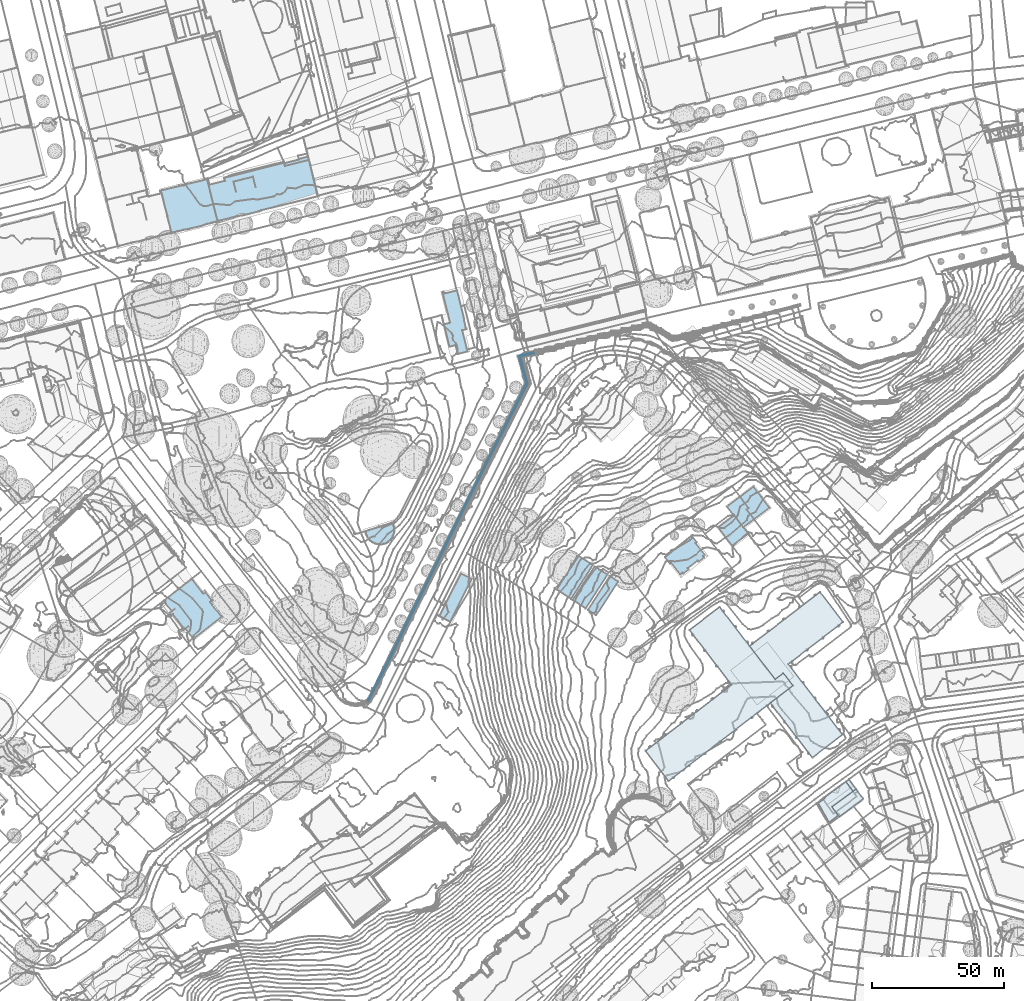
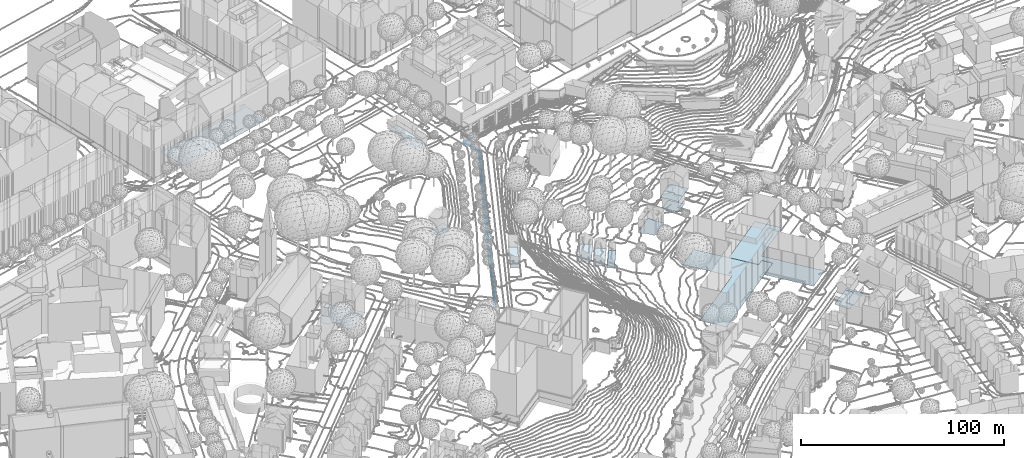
# Not in any storey, part 10 of 494: 16 footings.
"""IFC2X3 model written with IfcOpenShell, lengths in metres."""

import ifcopenshell
import ifcopenshell.guid

model = None  # the IFC model being written
_history = None  # IfcOwnerHistory: only IFC2X3 demands one
_inside = {}  # id of a spatial element -> (the spatial element, [elements in it])
_under = {}  # id of a project, library or spatial element -> (it, [spatial elements below it])
_declared = {}  # id of a project -> (the project, [libraries it declares])
_typed = {}  # id of a type object -> (the type object, [elements of that type])
_made_of = {}  # id of a material, layer set ... -> (it, [elements and type objects made of it])


def new_model(schema):
    """Start an empty IFC model of exactly this schema.

    Asked for "IFC4X3", IfcOpenShell would pick the latest addendum, in which some entities
    have other attributes; the version numbers below select the first issue.
    IFC2X3 requires an IfcOwnerHistory on every rooted entity: one is made here for all.
    """
    global model, _history
    if schema == "IFC4X3":
        model = ifcopenshell.file(schema_version=(4, 3, 0, 0))
    else:
        model = ifcopenshell.file(schema=schema)
    _inside.clear()
    _under.clear()
    _declared.clear()
    _typed.clear()
    _made_of.clear()
    _history = None
    if model.schema == "IFC2X3":
        org = make("IfcOrganization", Name="unknown")
        user = make(
            "IfcPersonAndOrganization",
            ThePerson=make("IfcPerson", FamilyName="unknown"),
            TheOrganization=org,
        )
        app = make(
            "IfcApplication",
            ApplicationDeveloper=org,
            Version="unknown",
            ApplicationFullName="unknown",
            ApplicationIdentifier="unknown",
        )
        _history = make(
            "IfcOwnerHistory",
            OwningUser=user,
            OwningApplication=app,
            ChangeAction="ADDED",
            CreationDate=0,
        )
    return model


def make(cls, **values):
    """One entity of the class cls with the attributes given. An attribute that is None is left unset."""
    return model.create_entity(
        cls, **{name: value for name, value in values.items() if value is not None}
    )


def rooted(cls, **values):
    """An entity with a GlobalId (a new one), such as an element, a storey or a relation."""
    return make(cls, GlobalId=ifcopenshell.guid.new(), OwnerHistory=_history, **values)


def si_unit(unit_type, name, prefix=None):
    """IfcSIUnit, for example si_unit("LENGTHUNIT", "METRE", prefix="MILLI")."""
    return make("IfcSIUnit", UnitType=unit_type, Prefix=prefix, Name=name)


def assignment(units):
    """IfcUnitAssignment: the units of a project."""
    return None if units is None else make("IfcUnitAssignment", Units=units)


def point(xyz):
    """IfcCartesianPoint."""
    return None if xyz is None else make("IfcCartesianPoint", Coordinates=xyz)


def direction(xyz):
    """IfcDirection."""
    return None if xyz is None else make("IfcDirection", DirectionRatios=xyz)


def frame(location, z_axis=None, x_axis=None):
    """IfcAxis2Placement3D, a coordinate frame: its origin and axes. An axis left out is left unset."""
    return make(
        "IfcAxis2Placement3D",
        Location=point(location),
        Axis=direction(z_axis),
        RefDirection=direction(x_axis),
    )


def origin_with_axes():
    """The frame at (0, 0, 0) with the z axis (0, 0, 1) and the x axis (1, 0, 0) written out."""
    return frame((0.0, 0.0, 0.0), z_axis=(0.0, 0.0, 1.0), x_axis=(1.0, 0.0, 0.0))


def place(relative_to, where):
    """IfcLocalPlacement: puts the frame where relative to a parent placement (None: the world)."""
    return make(
        "IfcLocalPlacement", PlacementRelTo=relative_to, RelativePlacement=where
    )


def context(
    kind, dimensions, precision=None, world=None, true_north=None, identifier=None
):
    """IfcGeometricRepresentationContext, for example the 3D "Model" context."""
    return make(
        "IfcGeometricRepresentationContext",
        ContextIdentifier=identifier,
        ContextType=kind,
        CoordinateSpaceDimension=dimensions,
        Precision=precision,
        WorldCoordinateSystem=world,
        TrueNorth=true_north,
    )


def subcontext(parent, identifier, kind, view, scale=None):
    """IfcGeometricRepresentationSubContext, for example "Body" below "Model"."""
    return make(
        "IfcGeometricRepresentationSubContext",
        ContextIdentifier=identifier,
        ContextType=kind,
        ParentContext=parent,
        TargetScale=scale,
        TargetView=view,
    )


def project(units=None, contexts=None):
    """IfcProject with its units and contexts."""
    return rooted(
        "IfcProject",
        Name="project",
        RepresentationContexts=contexts,
        UnitsInContext=assignment(units),
    )


def faces_of(points, faces, orient=None, outer=None):
    """IfcFace entities. A face is a list of loops; a loop is a list of indices into points, from 0.

    orient and outer hold one flag for each loop. By default every Orientation is true, the
    first loop of a face is its IfcFaceOuterBound and the others are IfcFaceBound.
    """
    made = []
    for i, loops in enumerate(faces):
        bounds = []
        for j, loop in enumerate(loops):
            is_outer = j == 0 if outer is None else outer[i][j]
            bounds.append(
                make(
                    "IfcFaceOuterBound" if is_outer else "IfcFaceBound",
                    Bound=make("IfcPolyLoop", Polygon=[points[k] for k in loop]),
                    Orientation=True if orient is None else orient[i][j],
                )
            )
        made.append(make("IfcFace", Bounds=bounds))
    return made


def faceted_brep(points, faces, orient=None, outer=None, voids=None):
    """IfcFacetedBrep: a solid bounded by flat faces; with voids (closed shells), ...WithVoids."""
    shared = [point(p) for p in points]
    hull = make("IfcClosedShell", CfsFaces=faces_of(shared, faces, orient, outer))
    if voids is None:
        return make("IfcFacetedBrep", Outer=hull)
    return make(
        "IfcFacetedBrepWithVoids",
        Outer=hull,
        Voids=[
            make(cls, CfsFaces=faces_of(shared, fs, o, b)) for cls, fs, o, b in voids
        ],
    )


def shape(context_of_items, identifier, shape_type, items):
    """IfcShapeRepresentation: the items that make up one representation, for example the "Body"."""
    return make(
        "IfcShapeRepresentation",
        ContextOfItems=context_of_items,
        RepresentationIdentifier=identifier,
        RepresentationType=shape_type,
        Items=items,
    )


def made_of(thing, what):
    """Note that an element or type object is made of a material, layer set ...; save() writes the relation."""
    if what is not None:
        _made_of.setdefault(what.id(), (what, []))[1].append(thing)
    return thing


def element(
    cls,
    number,
    at=None,
    inside=None,
    cuts=None,
    type_object=None,
    material=None,
    context=None,
    identifier="Body",
    shape_type=None,
    held_by="IfcProductDefinitionShape",
    body=None,
    shapes=None,
    **own,
):
    """One element of the class cls, such as IfcWall. Its Tag is "e" and its number.

    at: its placement. inside: the storey or other place that contains it. cuts: it is an
    opening in that element (IfcRelVoidsElement). A single representation is given by context,
    identifier, shape_type and body (its items); several are given by shapes. held_by: the class
    of the entity that holds the representations. save() writes the other relations.
    """
    e = rooted(cls, Tag="e%d" % number, ObjectPlacement=at, **own)
    if body is not None:
        shapes = [shape(context, identifier, shape_type, body)]
    if shapes is not None:
        e.Representation = make(held_by, Representations=shapes)
    if inside is not None:
        _inside.setdefault(inside.id(), (inside, []))[1].append(e)
    if cuts is not None:
        rooted(
            "IfcRelVoidsElement", RelatingBuildingElement=cuts, RelatedOpeningElement=e
        )
    if type_object is not None:
        _typed.setdefault(type_object.id(), (type_object, []))[1].append(e)
    return made_of(e, material)


def aggregate(whole, parts):
    """IfcRelAggregates: a whole, such as a stair, and the parts it consists of."""
    return rooted("IfcRelAggregates", RelatingObject=whole, RelatedObjects=parts)


def save(model, path):
    """Write the relations noted so far, then the file.

    IfcRelAggregates (storeys below a building ...), IfcRelContainedInSpatialStructure (elements
    in a storey), IfcRelDefinesByType, IfcRelAssociatesMaterial and IfcRelDeclares: one each for
    every whole, place, type object, material and project.
    """
    for whole, parts in _under.values():
        aggregate(whole, parts)
    for where, things in _inside.values():
        rooted(
            "IfcRelContainedInSpatialStructure",
            RelatedElements=things,
            RelatingStructure=where,
        )
    for kind, things in _typed.values():
        rooted("IfcRelDefinesByType", RelatedObjects=things, RelatingType=kind)
    for what, things in _made_of.values():
        rooted("IfcRelAssociatesMaterial", RelatedObjects=things, RelatingMaterial=what)
    for by, libraries in _declared.values():
        rooted("IfcRelDeclares", RelatingContext=by, RelatedDefinitions=libraries)
    model.write(path)


model = new_model("IFC2X3")

# Units and contexts
model_context = context("Model", 3, precision=1e-05, world=origin_with_axes())
body_context = subcontext(model_context, "Body", "Model", "MODEL_VIEW")
ifc_project = project(units=[si_unit("AREAUNIT", "SQUARE_METRE"), si_unit("LENGTHUNIT", "METRE")], contexts=[model_context])

# Footings
footing_1_placement = place(None, frame((211.8297320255, 101.9383160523, 526.7541), z_axis=(0.0, 0.0, 1.0), x_axis=(1.0, 0.0, 0.0)))
element("IfcFooting", 1, at=footing_1_placement, Name="Floor 25", PredefinedType="STRIP_FOOTING", context=body_context, shape_type="Brep", body=[
    faceted_brep([(59.6380000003, 116.7041000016, 6.9355), (69.2980000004, 136.0634999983, 6.9355), (60.0820000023, 116.4853000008, 6.9355), (78.887000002, 155.3955000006, 6.9355), (79.3300000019, 155.1757999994, 6.9355), (69.7410000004, 135.8436999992, 6.9355), (86.574000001, 170.8154000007, 6.9355), (41.1750000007, 79.504900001, 6.9354), (50.068, 97.128899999, 6.9355), (41.626000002, 79.3007999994, 6.9354), (50.5109999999, 96.9081999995, 6.9355), (98.7160000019, 210.6893999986, 6.9356), (99.3280000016, 210.3222000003, 6.9356), (101.5769999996, 200.1640000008, 6.9355), (104.3980000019, 211.9921999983, 6.9356), (104.5170000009, 211.5126999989, 6.9356), (102.1030000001, 200.1112999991, 6.9355), (87.0150000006, 170.5927000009, 6.9355), (98.7479999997, 194.5351000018, 6.9355), (99.1889999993, 194.3115000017, 6.9355)], [[[0, 1, 2]], [[3, 4, 5]], [[5, 1, 3]], [[3, 6, 4]], [[1, 5, 2]], [[7, 8, 9]], [[10, 8, 0]], [[0, 2, 10]], [[10, 9, 8]], [[11, 12, 13]], [[14, 15, 12]], [[12, 11, 14]], [[12, 16, 13]], [[17, 4, 6]], [[6, 18, 17]], [[19, 18, 13]], [[13, 16, 19]], [[19, 17, 18]]]),
])
footing_2_placement = place(None, frame((424.3367320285, 142.6277160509, 499.4686), z_axis=(0.0, 0.0, 1.0), x_axis=(1.0, 0.0, 0.0)))
element("IfcFooting", 2, at=footing_2_placement, Name="Floor 0", PredefinedType="STRIP_FOOTING", context=body_context, shape_type="Brep", body=[
    faceted_brep([(14.3859999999, 5.2675999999, 0.064), (13.2349999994, 4.4258000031, 0.064), (13.379999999, 6.630900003, 0.064), (11.6579999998, 8.9629000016, 0.064), (10.5249999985, 8.1280000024, 0.064), (17.1279999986, 1.5527999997, -0.042), (12.754999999, -1.6932999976, -0.042), (14.3859999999, 5.2675999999, -0.042), (5.186999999, -1.4618999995, -0.042), (7.9599999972, -5.2518999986, -0.042), (6.5159999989, 5.1739000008, 0.006), (12.2349999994, 5.7920000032, 0.006), (5.4739999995, -1.2518999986, 0.0), (13.2339999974, 4.4248000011, 0.006), (4.9789999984, 4.0420000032, 0.006), (9.0339999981, 7.0303000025, 0.006), (10.5249999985, 8.1280000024, 0.006), (8.3029999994, 6.4912, 0.006), (5.8249999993, -4.0233999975, 0.006), (3.3819999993, -0.682599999, 0.006), (5.186999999, -1.4618999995, 0.0), (6.629999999, -3.4335999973, 0.006), (2.6589999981, 1.9590000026, 0.006), (2.4809999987, 2.2012000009, 0.006), (1.8729999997, 1.379900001, 0.006), (1.4049999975, 1.0351999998, 0.005), (0.935999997, 0.6905000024, 0.003), (0.4679999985, 0.3448000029, 0.002), (1.7299999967, -3.0946999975, 0.0), (0.0, 0.0, 0.0), (7.5859999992, -4.740199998, 0.0), (4.1419999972, -7.3172999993, 0.0), (3.4469999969, -6.1659999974, 0.0)], [[[0, 1, 2]], [[1, 3, 2]], [[1, 4, 3]], [[5, 6, 7]], [[8, 7, 6]], [[6, 9, 8]], [[10, 11, 12]], [[12, 11, 13]], [[10, 12, 14]], [[11, 15, 16]], [[11, 17, 15]], [[10, 17, 11]], [[18, 19, 20]], [[20, 21, 18]], [[20, 19, 12]], [[22, 23, 14]], [[22, 19, 24]], [[22, 14, 19]], [[12, 19, 14]], [[24, 19, 25]], [[26, 25, 19]], [[27, 28, 29]], [[26, 28, 27]], [[19, 18, 26]], [[18, 28, 26]], [[30, 18, 21]], [[18, 30, 31]], [[32, 28, 18]], [[18, 31, 32]]]),
])
footing_3_placement = place(None, frame((358.6987320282, 162.4100160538, 500.5526), z_axis=(0.0, 0.0, 1.0), x_axis=(1.0, 0.0, 0.0)))
element("IfcFooting", 3, at=footing_3_placement, Name="Floor 0", PredefinedType="STRIP_FOOTING", context=body_context, shape_type="Brep", body=[
    faceted_brep([(61.7409999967, -0.8282000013, 0.0319), (62.248999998, -0.9805000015, 0.0319), (62.0029999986, -1.1689999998, 0.0319), (57.4189999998, 4.7919999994, 0.0319), (57.1629999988, 5.125, 0.0319), (57.4089999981, 5.3134000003, 0.0319), (74.8519999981, 6.2372999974, 0.0319), (63.4439999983, -2.5342000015, 0.0319), (73.368999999, 8.1669999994, 0.0319), (61.9869999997, -0.639700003, 0.0319), (57.6649999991, 4.9803999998, 0.0319), (69.0589999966, 13.7713999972, 0.0319), (73.6429999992, 7.8094999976, 0.0319), (48.5279999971, 16.8631999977, 0.032), (48.0209999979, 17.0155999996, 0.032), (48.2659999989, 17.2049999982, 0.032), (48.2829999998, 16.6747999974, 0.032), (53.0989999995, 10.9188999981, 0.032), (52.8369999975, 11.2588, 0.032), (64.4949999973, 19.7088999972, 0.032), (52.8539999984, 10.7294999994, 0.032), (56.0319999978, 24.8475999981, 0.032), (47.4529999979, 18.2626999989, 0.032), (68.8029999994, 14.1044999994, 0.0319), (52.5920000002, 11.0692999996, 0.032), (64.2329999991, 20.0497999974, 0.032), (73.8889999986, 7.998999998, 0.0319), (69.0489999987, 14.2938999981, 0.0319), (73.6149999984, 8.3553999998, 0.0319), (69.3049999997, 13.9608999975, 0.0319), (59.9229999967, 25.6551999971, 0.032), (55.3579999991, 31.5936999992, 0.032), (59.6549999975, 26.0047999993, 0.032), (55.6039999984, 31.7831999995, 0.032), (55.0899999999, 31.9422999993, 0.032), (60.1689999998, 25.8446999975, 0.032), (64.4780000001, 20.2381999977, 0.032), (64.7399999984, 19.8973999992, 0.032), (59.9009999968, 26.1932999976, 0.032), (55.3359999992, 32.1317999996, 0.032), (52.379999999, 29.6044999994, 0.032), (49.2740000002, 27.2206999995, 0.032), (40.9849999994, 40.9129999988, 0.032), (54.2729999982, 33.0047999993, 0.032), (46.5899999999, 45.2215999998, 0.032), (55.3229999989, 33.8125, 0.032), (55.6719999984, 34.0810000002, 0.032), (40.6439999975, 40.6503999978, 0.032), (39.5829999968, 39.8338999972, 0.032), (55.5119999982, 33.566399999, 0.032), (61.2839999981, 38.3954999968, 0.032), (46.9299999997, 45.4833999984, 0.032), (61.4729999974, 38.1493999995, 0.032), (61.6329999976, 38.6639999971, 0.032), (61.8219999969, 38.4178999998, 0.032), (55.8609999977, 33.8348999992, 0.032), (40.4549999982, 40.8963999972, 0.032), (40.7960000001, 41.1590999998, 0.032), (52.5429999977, 49.7997999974, 0.032), (46.4009999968, 45.4676999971, 0.032), (46.7409999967, 45.7294999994, 0.032), (52.3539999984, 50.0458999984, 0.032), (52.8829999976, 50.061499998, 0.032), (67.4100000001, 42.7157999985, 0.032), (67.2209999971, 42.9618999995, 0.032), (67.7509999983, 42.9774999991, 0.032), (67.561999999, 43.2236000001, 0.032), (73.1659999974, 47.5331999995, 0.032), (58.8279999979, 54.6338, 0.032), (73.3549999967, 47.2870999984, 0.032), (73.6949999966, 47.5487999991, 0.032), (73.5059999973, 47.7949000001, 0.032), (64.4239999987, 58.936499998, 0.032), (64.7649999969, 59.1991999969, 0.032), (75.0839999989, 49.0077999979, 0.032), (58.4869999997, 54.3719999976, 0.032), (58.2979999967, 54.6180999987, 0.032), (58.6389999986, 54.8797999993, 0.032), (64.2349999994, 59.182599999, 0.032), (66.3319999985, 60.4032999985, 0.032), (64.5759999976, 59.4442999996, 0.032), (52.6939999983, 50.307599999, 0.032), (33.925999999, 47.1952999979, 0.0), (34.1879999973, 46.8544999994, 0.0), (22.5350000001, 38.422799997, 0.0), (29.6079999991, 53.3241999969, 0.0), (29.8699999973, 52.9824000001, 0.0), (29.623999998, 52.7938999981, 0.0), (29.3619999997, 53.1347000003, 0.0), (17.9679999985, 44.3729999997, 0.0), (16.754999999, 45.9540999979, 0.0), (28.1559999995, 54.7049999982, 0.0), (18.2299999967, 44.0321999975, 0.0), (17.9839999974, 43.8426999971, 0.0), (34.1719999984, 47.3847000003, 0.0), (39.0099999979, 41.0887999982, 0.0), (38.7639999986, 40.8993999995, 0.0), (38.7479999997, 41.4296999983, 0.0), (38.5019999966, 41.2412, 0.0), (27.0999999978, 32.4736000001, 0.0), (22.7960000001, 38.0819999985, 0.0), (31.6600000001, 26.5321999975, 0.0), (27.3619999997, 32.1327999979, 0.0), (31.9219999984, 26.1903999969, 0.0), (27.1159999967, 31.9432999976, 0.0), (34.4339999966, 47.0438999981, 0.0), (22.2889999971, 38.2333999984, 0.0), (17.7219999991, 44.1835999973, 0.0), (22.549999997, 37.8924999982, 0.0), (31.675999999, 26.0018999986, 0.0), (26.8539999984, 32.2850999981, 0.0), (1.737999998, 1.7245999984, 0.0), (1.5869999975, 1.2176999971, 0.0), (1.3979999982, 1.4637999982, 0.0), (31.4139999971, 26.3426999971, 0.0), (19.7899999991, 15.1903999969, 0.0), (19.2599999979, 15.1747999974, 0.0), (19.6009999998, 15.436499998, 0.0), (25.3899999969, 19.4881999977, 0.0), (25.2009999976, 19.7342999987, 0.0), (25.5419999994, 19.9969999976, 0.0), (7.8769999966, 6.0458999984, 0.0), (7.3469999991, 6.0292999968, 0.0), (7.6879999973, 6.2919999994, 0.0), (13.4839999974, 10.3495999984, 0.0), (13.2949999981, 10.5956999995, 0.0), (13.6369999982, 10.8574000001, 0.0), (8.7929999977, -11.4101999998, 0.0), (0.0, 0.0, 0.0), (1.9269999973, 1.4784999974, 0.0), (31.4829999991, 24.556599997, 0.0), (31.6719999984, 24.3104999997, 0.0), (31.1419999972, 24.2949000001, 0.0), (32.737999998, 25.1278999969, 0.0), (40.4329999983, 12.875, 0.0), (40.1629999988, 12.6678999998, 0.0), (49.2740000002, 27.2206999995, 0.0), (46.0409999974, 17.1787, 0.0), (52.379999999, 29.6044999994, 0.0), (56.0319999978, 24.8475999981, 0.0), (31.3310000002, 24.0487999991, 0.0), (34.1499999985, 8.052699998, 0.0), (25.7309999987, 19.75, 0.0), (34.498999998, 8.3202999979, 0.0), (34.3389999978, 7.806599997, 0.0), (28.549999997, 3.753899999, 0.0), (46.3899999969, 17.4463, 0.0), (46.2299999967, 16.932599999, 0.0), (46.5789999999, 17.2010999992, 0.0), (34.6879999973, 8.0751999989, 0.0), (40.3519999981, 12.4217999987, 0.0), (40.6219999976, 12.628899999, 0.0), (16.6519999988, -5.3780000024, 0.0), (13.8259999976, 10.6112999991, 0.0), (22.2599999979, -1.0743000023, 0.0), (19.4489999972, 14.9287, 0.0), (22.6009999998, -0.8125, 0.0), (7.5359999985, 5.7840999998, 0.0), (10.3619999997, -10.2061000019, 0.0), (10.7029999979, -9.9444000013, 0.0), (10.8919999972, -10.1905000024, 0.0), (16.310999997, -5.6407000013, 0.0), (16.8409999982, -5.6240999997, 0.0), (28.2089999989, 3.4921999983, 0.0), (28.7390000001, 3.5077999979, 0.0), (28.3979999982, 3.2460999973, 0.0), (22.7899999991, -1.058600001, 0.0), (10.550999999, -10.452200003, 0.0), (16.5, -5.8868000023, 0.0), (22.4489999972, -1.3203000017, 0.0)], [[[0, 1, 2]], [[3, 4, 5]], [[6, 7, 1]], [[8, 9, 10]], [[1, 0, 9]], [[10, 3, 5]], [[11, 10, 5]], [[12, 1, 9]], [[13, 14, 15]], [[13, 16, 14]], [[17, 18, 19]], [[20, 18, 17]], [[21, 15, 22]], [[18, 13, 21]], [[15, 21, 13]], [[17, 23, 5]], [[20, 24, 18]], [[21, 25, 18]], [[8, 26, 12]], [[10, 11, 8]], [[11, 23, 27]], [[5, 23, 11]], [[17, 19, 23]], [[9, 8, 12]], [[8, 28, 26]], [[27, 29, 11]], [[1, 12, 6]], [[21, 30, 25]], [[31, 32, 21]], [[30, 21, 32]], [[33, 31, 34]], [[18, 25, 19]], [[30, 32, 35]], [[36, 37, 25]], [[35, 32, 38]], [[39, 33, 34]], [[31, 40, 34]], [[37, 19, 25]], [[21, 40, 31]], [[41, 42, 40]], [[43, 44, 45]], [[34, 40, 43]], [[45, 44, 46]], [[47, 41, 48]], [[45, 46, 49]], [[50, 46, 51]], [[52, 53, 54]], [[49, 46, 55]], [[50, 53, 52]], [[42, 41, 47]], [[47, 56, 42]], [[43, 40, 42]], [[42, 56, 57]], [[44, 43, 42]], [[50, 51, 58]], [[51, 59, 60]], [[44, 59, 51]], [[50, 58, 53]], [[46, 44, 51]], [[58, 61, 62]], [[63, 64, 65]], [[66, 65, 64]], [[53, 62, 64]], [[67, 66, 68]], [[69, 67, 70]], [[71, 67, 72]], [[71, 73, 74]], [[70, 67, 71]], [[64, 75, 66]], [[67, 68, 72]], [[75, 68, 66]], [[76, 68, 75]], [[58, 62, 53]], [[76, 77, 68]], [[71, 72, 73]], [[73, 72, 78]], [[79, 74, 73]], [[80, 73, 78]], [[62, 75, 64]], [[81, 62, 61]], [[82, 83, 84]], [[85, 86, 87]], [[88, 89, 90]], [[90, 91, 88]], [[88, 87, 89]], [[92, 87, 82]], [[82, 84, 92]], [[89, 92, 93]], [[92, 89, 87]], [[85, 87, 88]], [[94, 83, 82]], [[95, 96, 97]], [[96, 98, 97]], [[96, 99, 98]], [[100, 83, 98]], [[99, 100, 98]], [[100, 84, 83]], [[96, 101, 102]], [[99, 96, 102]], [[96, 103, 101]], [[102, 104, 99]], [[83, 94, 105]], [[106, 84, 100]], [[89, 93, 107]], [[108, 106, 100]], [[103, 109, 101]], [[99, 104, 110]], [[111, 112, 113]], [[114, 101, 109]], [[115, 116, 117]], [[118, 119, 120]], [[121, 122, 123]], [[124, 125, 126]], [[112, 127, 128]], [[112, 111, 129]], [[130, 131, 132]], [[96, 133, 103]], [[131, 134, 135]], [[133, 136, 137]], [[133, 96, 136]], [[136, 138, 139]], [[133, 134, 131]], [[135, 140, 131]], [[115, 118, 141]], [[120, 142, 118]], [[118, 142, 141]], [[141, 142, 143]], [[140, 135, 143]], [[141, 143, 144]], [[142, 140, 143]], [[115, 141, 145]], [[131, 140, 132]], [[137, 146, 147]], [[134, 133, 137]], [[136, 139, 146]], [[146, 137, 136]], [[146, 148, 147]], [[144, 143, 149]], [[134, 150, 135]], [[151, 150, 134]], [[124, 152, 121]], [[124, 153, 154]], [[124, 126, 153]], [[153, 155, 156]], [[154, 152, 124]], [[121, 157, 122]], [[152, 157, 121]], [[158, 127, 112]], [[129, 157, 159]], [[112, 129, 158]], [[158, 159, 160]], [[158, 129, 159]], [[159, 157, 161]], [[152, 161, 157]], [[162, 161, 152]], [[163, 156, 155]], [[155, 145, 163]], [[145, 164, 163]], [[163, 164, 165]], [[166, 154, 156]], [[167, 158, 160]], [[161, 162, 168]], [[166, 169, 154]], [[154, 153, 156]], [[115, 145, 155]], [[155, 116, 115]]]),
])
footing_4_placement = place(None, frame((331.0367320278, 219.7098160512, 508.5819), z_axis=(0.0, 0.0, 1.0), x_axis=(1.0, 0.0, 0.0)))
element("IfcFooting", 4, at=footing_4_placement, Name="Floor 0", PredefinedType="STRIP_FOOTING", context=body_context, shape_type="Brep", body=[
    faceted_brep([(8.3099999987, 12.7871000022, 0.0), (10.1079999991, 11.6181000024, 0.0), (0.0, 0.0, 0.0), (13.1989999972, 9.6084000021, 0.0), (1.7980000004, -1.1689999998, 0.0), (4.8889999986, -3.1777999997, 0.0)], [[[0, 1, 2]], [[1, 3, 4]], [[4, 2, 1]], [[3, 5, 4]]]),
])
footing_5_placement = place(None, frame((336.8067320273, 215.9607160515, 507.462), z_axis=(0.0, 0.0, 1.0), x_axis=(1.0, 0.0, 0.0)))
element("IfcFooting", 5, at=footing_5_placement, Name="Floor 0", PredefinedType="STRIP_FOOTING", context=body_context, shape_type="Brep", body=[
    faceted_brep([(3.1429999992, -2.0438999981, 0.0), (1.5850000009, -1.0311999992, 0.0), (11.4519999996, 10.7422000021, 0.0), (0.0, 0.0, 0.0), (9.8939999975, 11.754900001, 0.0), (8.3090000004, 12.7862000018, 0.0)], [[[0, 1, 2]], [[1, 3, 4]], [[2, 1, 4]], [[4, 3, 5]]]),
])
footing_6_placement = place(None, frame((324.9327320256, 223.6766160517, 510.9427), z_axis=(0.0, 0.0, 1.0), x_axis=(1.0, 0.0, 0.0)))
element("IfcFooting", 6, at=footing_6_placement, Name="Floor 0", PredefinedType="STRIP_FOOTING", context=body_context, shape_type="Brep", body=[
    faceted_brep([(0.0, 0.0, 0.0), (8.3100000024, 12.7871000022, 0.0), (2.1440000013, -1.3925999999, 0.0), (10.4539999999, 11.3935000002, 0.0), (5.4330000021, -3.5313000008, 0.0), (13.7430000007, 9.2558000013, 0.0)], [[[0, 1, 2]], [[2, 3, 4]], [[3, 2, 1]], [[5, 4, 3]]]),
])
footing_7_placement = place(None, frame((280.3717320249, 213.5818160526, 528.5311), z_axis=(0.0, 0.0, 1.0), x_axis=(1.0, 0.0, 0.0)))
element("IfcFooting", 7, at=footing_7_placement, Name="Floor 0", PredefinedType="STRIP_FOOTING", context=body_context, shape_type="Brep", body=[
    faceted_brep([(8.1610000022, 16.254900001, 0.0), (12.2990000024, 14.1807000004, 0.0), (0.0, 0.0, 0.0), (4.1460000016, -2.0859000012, -0.0001)], [[[0, 1, 2]], [[1, 3, 2]]]),
])
footing_8_placement = place(None, frame((366.0957320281, 236.0047160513, 506.5151), z_axis=(0.0, 0.0, 1.0), x_axis=(1.0, 0.0, 0.0)))
element("IfcFooting", 8, at=footing_8_placement, Name="Floor 0", PredefinedType="STRIP_FOOTING", context=body_context, shape_type="Brep", body=[
    faceted_brep([(2.3599999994, -2.1034999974, 0.0), (1.9459999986, -2.4345999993, 0.0), (0.0, 0.0, 0.0), (0.2569999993, 0.2050999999, 0.0), (6.1889999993, -6.1855999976, 0.0), (5.8429999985, -6.4618999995, 0.0), (6.623999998, -5.8378999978, 0.0), (8.6779999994, -4.1952999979, 0.0), (6.9679999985, -6.2665999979, 0.0), (9.0219999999, -4.625, 0.0), (12.3489999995, -1.2597999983, 0.0), (11.6629999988, 5.3350000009, 0.0), (9.9329999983, 7.9433000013, 0.0), (10.1539999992, 8.1191000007, 0.0), (12.0999999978, 5.6845999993, 0.0), (14.8279999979, -0.0849999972, 0.0), (12.742999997, -1.7520000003, 0.0), (14.4340000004, 0.4072000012, 0.0), (14.7960000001, 0.6963, 0.0), (15.1469999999, 0.9766000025, 0.0)], [[[0, 1, 2]], [[0, 2, 3]], [[0, 4, 5]], [[4, 0, 6]], [[7, 6, 0]], [[8, 7, 9]], [[6, 7, 8]], [[10, 7, 0]], [[3, 11, 0]], [[11, 12, 13]], [[10, 0, 11]], [[11, 13, 14]], [[15, 16, 10]], [[10, 17, 15]], [[11, 18, 17]], [[17, 10, 11]], [[18, 11, 19]], [[3, 12, 11]]]),
])
footing_9_placement = place(None, frame((389.7587320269, 255.2674160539, 507.648), z_axis=(0.0, 0.0, 1.0), x_axis=(1.0, 0.0, 0.0)))
element("IfcFooting", 9, at=footing_9_placement, Name="Floor 0", PredefinedType="STRIP_FOOTING", context=body_context, shape_type="Brep", body=[
    faceted_brep([(0.0, 0.0, 0.0), (0.0540000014, 0.0399999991, 0.0), (2.2520000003, -2.9736000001, 0.0), (2.686999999, -3.3447000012, 0.0), (2.6359999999, -3.380900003, 0.0), (4.9050000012, 3.7089999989, 0.0), (2.5890000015, -3.4180000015, 0.0), (7.436999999, -1.125, 0.0), (3.1349999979, -3.9346000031, 0.0), (8.5309999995, -6.0830000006, 0.0), (6.1270000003, -7.884800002, 0.0), (8.1559999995, -0.5850000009, 0.0), (10.2269999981, -4.8115000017, 0.0)], [[[0, 1, 2]], [[3, 4, 2]], [[5, 3, 2]], [[4, 6, 2]], [[3, 7, 8]], [[9, 10, 8]], [[1, 5, 2]], [[5, 11, 7]], [[9, 8, 7]], [[12, 9, 7]], [[7, 3, 5]]]),
])
footing_10_placement = place(None, frame((394.6637320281, 258.9764160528, 507.648), z_axis=(0.0, 0.0, 1.0), x_axis=(1.0, 0.0, 0.0)))
element("IfcFooting", 10, at=footing_10_placement, Name="Floor 0", PredefinedType="STRIP_FOOTING", context=body_context, shape_type="Brep", body=[
    faceted_brep([(1.9109999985, 1.4510999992, 0.0), (5.0969999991, 3.8691000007, 0.0), (8.1529999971, -0.1640999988, 0.0), (11.1429999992, -4.1103999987, 0.0), (5.3219999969, -8.5205000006, 0.0), (3.2509999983, -4.2939999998, 0.0), (2.5319999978, -4.8339999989, 0.0), (0.0, 0.0, 0.0)], [[[0, 1, 2]], [[2, 3, 4]], [[5, 2, 4]], [[4, 6, 5]], [[7, 0, 5]], [[5, 0, 2]]]),
])
footing_11_placement = place(None, frame((386.3977320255, 247.3445160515, 507.147), z_axis=(0.0, 0.0, 1.0), x_axis=(1.0, 0.0, 0.0)))
element("IfcFooting", 11, at=footing_11_placement, Name="Floor 0", PredefinedType="STRIP_FOOTING", context=body_context, shape_type="Brep", body=[
    faceted_brep([(9.4880000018, 0.0381000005, 0.0), (2.3630000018, -3.1268999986, 0.0), (8.6750000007, 1.1114000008, 0.0), (11.4150000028, -2.2997999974, 0.0), (9.5879999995, 0.1182000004, 0.0), (5.9979999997, 4.5410000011, 0.0), (6.0480000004, 4.5782000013, 0.0), (5.5989999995, 4.9678000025, 0.0), (5.6469999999, 5.004900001, 0.0), (5.9510000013, 4.504900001, 0.0), (0.0, 0.0, 0.0), (5.2630000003, -6.9628999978, 0.0)], [[[0, 1, 2]], [[3, 0, 4]], [[2, 5, 6]], [[5, 7, 8]], [[9, 5, 2]], [[9, 2, 10]], [[7, 5, 9]], [[1, 3, 11]], [[1, 10, 2]], [[1, 0, 3]]]),
])
footing_12_placement = place(None, frame((252.4497320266, 245.9139160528, 540.482), z_axis=(0.0, 0.0, 1.0), x_axis=(1.0, 0.0, 0.0)))
element("IfcFooting", 12, at=footing_12_placement, Name="Floor 0", PredefinedType="STRIP_FOOTING", context=body_context, shape_type="Brep", body=[
    faceted_brep([(0.0, 0.0, 0.0), (0.1530000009, -0.9970999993, 0.0), (0.0529999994, -0.5029999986, 0.0), (0.3000000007, -1.4844000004, 0.0), (0.4910000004, -1.9521999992, 0.0), (0.7250000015, -2.4013999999, 0.0), (7.0, -4.8368999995, 0.0), (5.5760000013, -5.0791000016, 0.0), (1.0, -2.8262000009, 0.0), (1.2980000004, -3.2061000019, 0.0), (4.9250000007, 1.5947000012, 0.0), (9.3649999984, -3.3300999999, 0.0), (2.3790000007, -4.1640999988, 0.0), (1.9899999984, -3.8770000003, 0.0), (1.6290000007, -3.557599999, 0.0), (3.2219999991, -4.6279999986, 0.0), (2.7910000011, -4.4151000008, 0.0), (4.6130000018, -5.0263999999, 0.0), (4.1389999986, -4.9356000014, 0.0), (3.6750000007, -4.8018000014, 0.0), (5.0929999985, -5.0742000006, 0.0), (6.5329999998, -4.9600000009, 0.0), (6.057, -5.0410000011, 0.0), (10.1680000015, 2.808600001, 0.0), (10.2850000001, 2.558600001, 0.0), (9.932, 3.2168000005, 0.0), (10.5280000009, 1.9393999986, 0.0), (10.3669999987, 2.3827999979, 0.0), (10.6499999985, 1.4853000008, 0.0), (10.7740000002, 0.552699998, 0.0), (10.7320000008, 1.0214999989, 0.0), (10.7740000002, 0.0819999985, 0.0), (10.7340000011, -0.3867000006, 0.0), (10.6519999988, -0.8506000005, 0.0), (10.5309999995, -1.3047000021, 0.0), (7.879999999, -4.4737000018, 0.0), (8.2910000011, -4.2353999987, 0.0), (7.4539999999, -4.6728999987, 0.0), (8.6730000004, -3.9668000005, 0.0), (10.1710000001, -2.1768000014, 0.0), (9.936999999, -2.5830000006, 0.0), (9.6680000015, -2.9688000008, 0.0), (9.0329999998, -3.6631000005, 0.0), (10.370000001, -1.7481000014, 0.0)], [[[0, 1, 2]], [[1, 0, 3]], [[4, 3, 0]], [[5, 4, 0]], [[6, 7, 0]], [[8, 5, 0]], [[8, 0, 9]], [[0, 10, 11]], [[0, 12, 13]], [[13, 14, 0]], [[0, 15, 16]], [[12, 0, 16]], [[0, 14, 9]], [[7, 17, 18]], [[18, 19, 7]], [[20, 17, 7]], [[19, 15, 0]], [[7, 19, 0]], [[21, 22, 7]], [[23, 24, 25]], [[26, 25, 27]], [[25, 24, 27]], [[28, 10, 25]], [[25, 26, 28]], [[29, 10, 30]], [[29, 31, 10]], [[32, 33, 10]], [[10, 31, 32]], [[28, 30, 10]], [[34, 10, 33]], [[35, 0, 36]], [[7, 6, 21]], [[0, 37, 6]], [[37, 0, 35]], [[36, 0, 38]], [[39, 40, 10]], [[10, 40, 41]], [[38, 0, 42]], [[0, 11, 42]], [[41, 11, 10]], [[10, 43, 39]], [[43, 10, 34]]]),
])
footing_13_placement = place(None, frame((281.5977320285, 336.7850160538, 537.4764), z_axis=(0.0, 0.0, 1.0), x_axis=(1.0, 0.0, 0.0)))
element("IfcFooting", 13, at=footing_13_placement, Name="Floor 0", PredefinedType="STRIP_FOOTING", context=body_context, shape_type="Brep", body=[
    faceted_brep([(5.799999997, -23.5655000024, -0.0001), (4.9839999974, -20.193400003, -0.0001), (9.5009999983, -22.6465000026, -0.0001), (0.5489999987, -12.2745000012, -0.0001), (2.6399999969, -20.7715000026, -0.0001), (2.879999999, -11.7002000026, -0.0001), (7.5019999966, -14.5274000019, -0.0001), (9.1529999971, -14.121100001, -0.0001), (8.9499999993, -14.005900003, -0.0001), (9.1149999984, -13.9659000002, -0.0001), (5.5299999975, 0.6004999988, 0.0), (0.0, 0.0, 0.0), (0.612999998, -0.6094000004, 0.0), (0.436999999, 0.1074000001, 0.0), (8.0949999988, -10.5293000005, -0.0001), (8.2589999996, -10.4893000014, -0.0001)], [[[0, 1, 2]], [[3, 1, 4]], [[1, 5, 6]], [[1, 6, 2]], [[7, 8, 9]], [[6, 8, 7]], [[5, 1, 3]], [[5, 10, 6]], [[11, 12, 5]], [[12, 11, 13]], [[12, 10, 5]], [[14, 10, 15]], [[14, 8, 6]], [[6, 10, 14]]]),
])
footing_14_placement = place(None, frame((174.360732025, 216.5486160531, 540.845), z_axis=(0.0, 0.0, 1.0), x_axis=(1.0, 0.0, 0.0)))
element("IfcFooting", 14, at=footing_14_placement, Name="Floor 0", PredefinedType="STRIP_FOOTING", context=body_context, shape_type="Brep", body=[
    faceted_brep([(10.3590000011, -12.9081999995, -9.8481), (8.7310000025, -7.2421000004, -9.8481), (12.4040000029, -11.2968000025, -9.8481), (6.9850000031, -8.6123000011, -9.8481), (8.2160000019, -10.1787, -9.8481), (12.6359999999, -11.1141999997, -9.8481), (13.006000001, -11.2382000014, -9.8481), (5.9730000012, 6.6503999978, -9.8481), (12.8380000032, -11.371100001, -9.8481), (19.5820000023, 1.4882999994, -9.8481), (23.2480000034, -3.1678999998, -9.8481), (18.9020000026, 2.3506000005, -9.8481), (18.8450000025, 2.4239000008, -9.8481), (19.4770000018, 3.1708999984, -9.8481), (19.5980000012, 3.0165999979, -9.8481), (19.2280000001, 2.7256000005, -9.8481), (16.7370000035, 5.8017999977, -9.8481), (6.7300000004, -4.6875, -9.8481), (4.7440000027, -2.1533000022, -9.8481), (1.9830000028, 2.5927999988, -9.8481), (1.6740000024, 2.3506000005, -9.8481), (1.6500000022, 3.0196000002, -9.8481), (1.7290000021, 3.0810999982, -9.8481), (1.6060000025, 3.2382999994, -9.8481), (15.824000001, 6.2480999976, -9.8481), (16.0290000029, 5.9873000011, -9.8481), (16.3890000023, 5.5293000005, -9.8481), (17.1560000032, 6.1318999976, -9.8481), (11.881000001, 11.2665999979, -9.8481), (12.0300000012, 11.0781999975, -9.8481), (2.5940000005, -2.8584000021, -9.8481), (0.2130000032, 0.1767999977, -9.8481), (3.8570000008, -2.8486000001, -9.8481), (3.1090000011, -3.0634000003, -9.8481), (2.8370000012, -2.996100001, -9.8481), (3.382000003, -3.0566000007, -9.8481), (3.5580000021, -3.0126999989, -9.8481), (3.8000000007, -2.8925000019, -9.8481), (2.376000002, -3.0293000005, -9.8481), (0.0, 0.0, -9.8481), (0.3000000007, 1.2421999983, -9.8481), (0.1690000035, 0.9970999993, -9.8481), (0.1090000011, 0.7226999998, -9.8481), (0.1230000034, 0.4433999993, -9.8481), (0.4910000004, 1.4443999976, -9.8481), (0.6450000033, 1.5469000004, -9.8481)], [[[0, 1, 2]], [[3, 1, 4]], [[1, 5, 2]], [[0, 4, 1]], [[6, 1, 7]], [[5, 6, 8]], [[9, 10, 6]], [[5, 1, 6]], [[11, 9, 7]], [[12, 11, 7]], [[13, 14, 15]], [[13, 15, 16]], [[15, 12, 16]], [[9, 6, 7]], [[7, 1, 17]], [[17, 18, 7]], [[19, 18, 20]], [[21, 22, 19]], [[23, 7, 22]], [[19, 7, 18]], [[19, 22, 7]], [[24, 25, 7]], [[16, 12, 26]], [[27, 13, 16]], [[26, 7, 25]], [[7, 26, 12]], [[7, 28, 29]], [[24, 7, 29]], [[30, 31, 32]], [[30, 33, 34]], [[30, 32, 33]], [[35, 32, 36]], [[37, 36, 32]], [[33, 32, 35]], [[38, 39, 30]], [[32, 31, 40]], [[41, 31, 42]], [[40, 31, 41]], [[43, 42, 31]], [[44, 32, 40]], [[44, 45, 32]], [[20, 18, 45]], [[45, 18, 32]], [[30, 39, 31]]]),
])
footing_15_placement = place(None, frame((192.1757320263, 379.5145160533, 538.5554), z_axis=(0.0, 0.0, 1.0), x_axis=(1.0, 0.0, 0.0)))
element("IfcFooting", 15, at=footing_15_placement, Name="Floor 0", PredefinedType="STRIP_FOOTING", context=body_context, shape_type="Brep", body=[
    faceted_brep([(0.8410000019, -1.9375, -0.9389), (1.8319999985, -7.3956000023, -0.9389), (0.2219999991, -0.8955000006, -0.9389), (0.5670000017, -0.808600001, -0.9389), (4.2919999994, -15.683600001, -0.9389), (3.9620000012, -15.9922000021, -0.9389), (6.4389999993, 0.6464000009, -0.9389), (6.5610000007, 0.6952999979, -0.9389), (6.7259999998, -0.5030000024, -0.9389), (39.936999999, 2.1659999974, -0.939), (19.6649999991, -11.9814999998, -0.939), (11.9180000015, -13.8038000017, -0.939), (4.3449999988, -15.8975000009, -0.9389), (12.7970000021, -13.7930000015, -0.939), (12.7780000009, -13.7002000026, -0.939), (19.6889999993, -12.0868999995, -0.939), (11.9349999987, -13.9004000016, -0.939), (29.2349999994, 6.1952999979, -0.9389), (34.8520000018, 7.5946999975, -0.9389), (20.4829999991, -11.683600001, -0.939), (38.3819999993, 8.6805999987, -0.9389), (34.8090000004, 7.7840999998, -0.9389), (41.6380000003, -4.9532000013, -0.939), (36.9420000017, -7.6289000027, -0.939), (20.504999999, -11.7919999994, -0.939), (41.9809999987, -6.3877000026, -0.939), (29.1900000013, 6.373999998, -0.9389), (38.3509999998, 8.6717999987, 0.0), (34.8090000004, 7.7840999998, 0.0), (37.993999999, 9.875, 0.0), (34.5139999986, 9.0887999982, 0.0), (29.1900000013, 6.373999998, 0.0), (6.5610000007, 0.6952999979, 0.0), (29.0920000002, 6.7674999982, 0.0), (9.6050000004, 1.9208000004, 0.0), (39.2149999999, 5.4384000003, 0.0), (39.1590000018, 5.4237999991, 0.0), (38.7160000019, 7.4463, 0.0), (38.5159999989, 8.120099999, 0.0), (0.5670000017, -0.808600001, 0.0), (0.0, 0.0, 0.0), (0.3489999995, 0.0878999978, 0.0), (0.2219999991, -0.8955000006, 0.0)], [[[0, 1, 2]], [[2, 3, 0]], [[4, 5, 1]], [[6, 7, 8]], [[8, 1, 0]], [[8, 9, 1]], [[10, 11, 1]], [[4, 12, 5]], [[13, 14, 10]], [[13, 10, 15]], [[14, 11, 10]], [[16, 11, 14]], [[1, 11, 4]], [[7, 17, 8]], [[8, 17, 9]], [[17, 18, 9]], [[1, 9, 19]], [[19, 10, 1]], [[20, 18, 21]], [[18, 20, 9]], [[9, 22, 23]], [[10, 19, 24]], [[22, 25, 23]], [[9, 23, 19]], [[7, 26, 17]], [[27, 28, 29]], [[30, 29, 28]], [[31, 32, 33]], [[34, 33, 32]], [[35, 36, 37]], [[38, 37, 36]], [[39, 40, 41]], [[40, 39, 42]]]),
])
footing_16_placement = place(None, frame((174.5787320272, 375.3924160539, 537.4785), z_axis=(0.0, 0.0, 1.0), x_axis=(1.0, 0.0, 0.0)))
element("IfcFooting", 16, at=footing_16_placement, Name="Floor 0", PredefinedType="STRIP_FOOTING", context=body_context, shape_type="Brep", body=[
    faceted_brep([(0.3849999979, 0.0986000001, 0.0), (0.3969999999, 0.0507999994, 0.0), (0.0, 0.0, 0.0), (0.2809999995, -1.1045000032, 0.0), (1.5749999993, -6.2988000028, 0.0), (6.9699999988, 1.6620999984, 0.0), (2.4510000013, -9.818400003, 0.0), (8.2049999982, 1.748999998, 0.0), (6.9459999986, 1.7645999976, 0.0), (8.1479999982, 2.0673999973, 0.0), (9.3319999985, -14.8360000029, 0.0), (8.7690000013, -14.9004000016, 0.0), (11.8819999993, -14.3125, 0.0), (13.6970000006, -13.8633000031, 0.0), (7.4479999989, -15.2314999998, 0.0), (4.9620000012, -15.8555000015, 0.0), (6.3159999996, -15.5078000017, 0.0), (6.3350000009, -15.5800999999, 0.0), (4.4479999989, -16.0469000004, 0.0), (4.4800000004, -16.1475000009, 0.0), (4.0529999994, -16.2578000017, 0.0), (4.9749999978, -15.9160000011, 0.0), (8.7859999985, -14.9707000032, 0.0), (9.3709999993, -14.9912, 0.0), (11.8640000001, -14.3740000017, 0.0), (7.4659999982, -15.2979000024, 0.0), (9.5449999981, 2.0780999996, 0.0), (10.6730000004, 2.5643999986, 0.0), (19.0960000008, -1.9277000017, 0.0), (9.4670000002, 2.375, 0.0), (16.686999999, -12.9209000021, 0.0), (20.8099999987, -8.8496000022, 0.0), (18.0549999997, -12.5820000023, 0.0), (19.9679999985, -5.4502000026, 0.0), (19.1519999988, -12.3106000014, 0.0), (20.5309999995, -11.9688000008, 0.0), (18.0819999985, -12.688500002, 0.0), (10.6440000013, 2.6699000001, 0.0), (17.5500000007, 4.3104999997, 0.0), (17.2129999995, 4.1679999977, 0.0), (17.1999999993, 4.2206999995, 0.0), (18.2819999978, 1.3583999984, 0.0), (20.938000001, -11.9209000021, 0.0), (16.7139999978, -13.0274000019, 0.0), (16.2089999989, -13.1524000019, 0.0), (13.7369999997, -13.9004000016, 0.0), (16.2399999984, -13.2793000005, 0.0), (20.5579999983, -12.0752000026, 0.0), (20.9519999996, -11.9776000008, 0.0), (21.5590000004, -11.8701000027, 0.0), (21.074000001, -11.9902000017, 0.0), (21.0500000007, -11.8925999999, 0.0), (19.1779999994, -12.4180000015, 0.0)], [[[0, 1, 2]], [[1, 3, 2]], [[4, 3, 5]], [[6, 4, 7]], [[3, 1, 5]], [[8, 9, 5]], [[7, 4, 5]], [[10, 11, 6]], [[5, 9, 7]], [[12, 6, 7]], [[7, 13, 12]], [[11, 14, 6]], [[15, 6, 16]], [[16, 14, 17]], [[18, 19, 20]], [[20, 6, 18]], [[15, 21, 18]], [[18, 6, 15]], [[11, 10, 22]], [[23, 10, 24]], [[24, 10, 12]], [[6, 12, 10]], [[25, 17, 14]], [[6, 14, 16]], [[26, 27, 28]], [[26, 29, 27]], [[30, 31, 32]], [[13, 26, 33]], [[32, 31, 34]], [[31, 35, 34]], [[34, 36, 32]], [[29, 37, 27]], [[38, 39, 40]], [[38, 41, 39]], [[26, 28, 33]], [[31, 30, 33]], [[41, 28, 27]], [[41, 27, 39]], [[31, 42, 35]], [[43, 44, 30]], [[13, 44, 45]], [[46, 45, 44]], [[44, 13, 33]], [[33, 30, 44]], [[42, 47, 35]], [[48, 47, 42]], [[49, 50, 51]], [[31, 49, 51]], [[34, 52, 36]], [[51, 42, 31]], [[13, 7, 26]]]),
])

save(model, "model.ifc")
